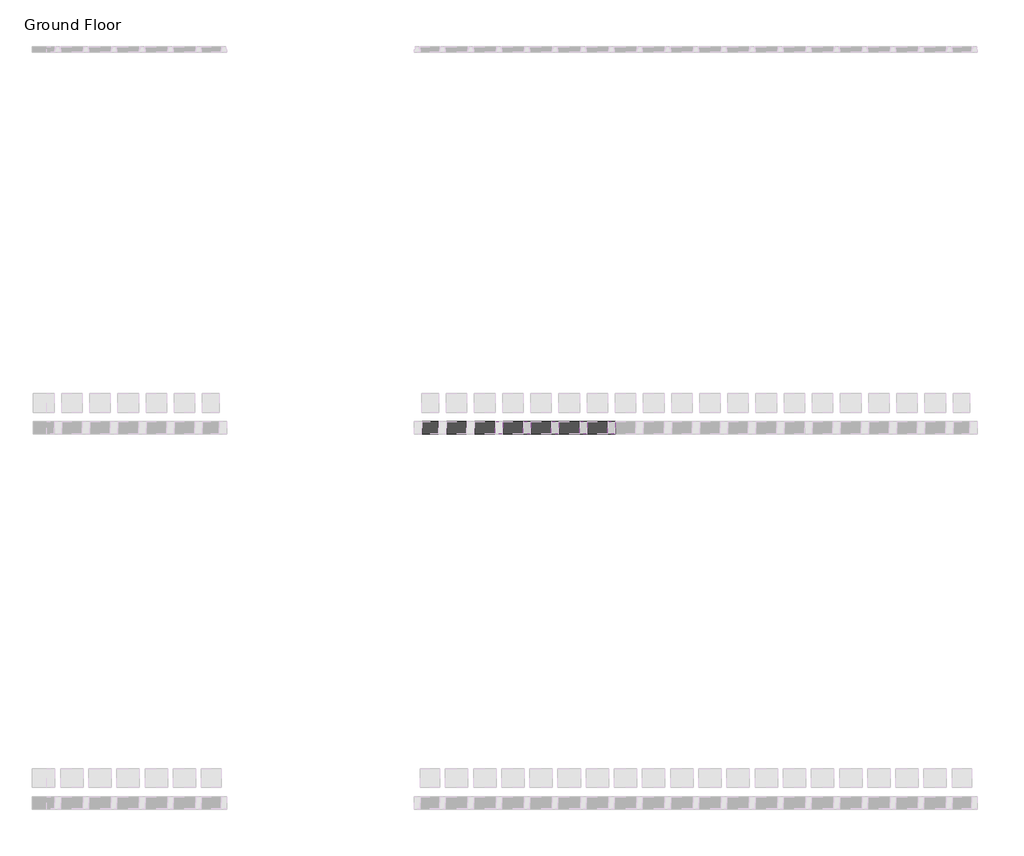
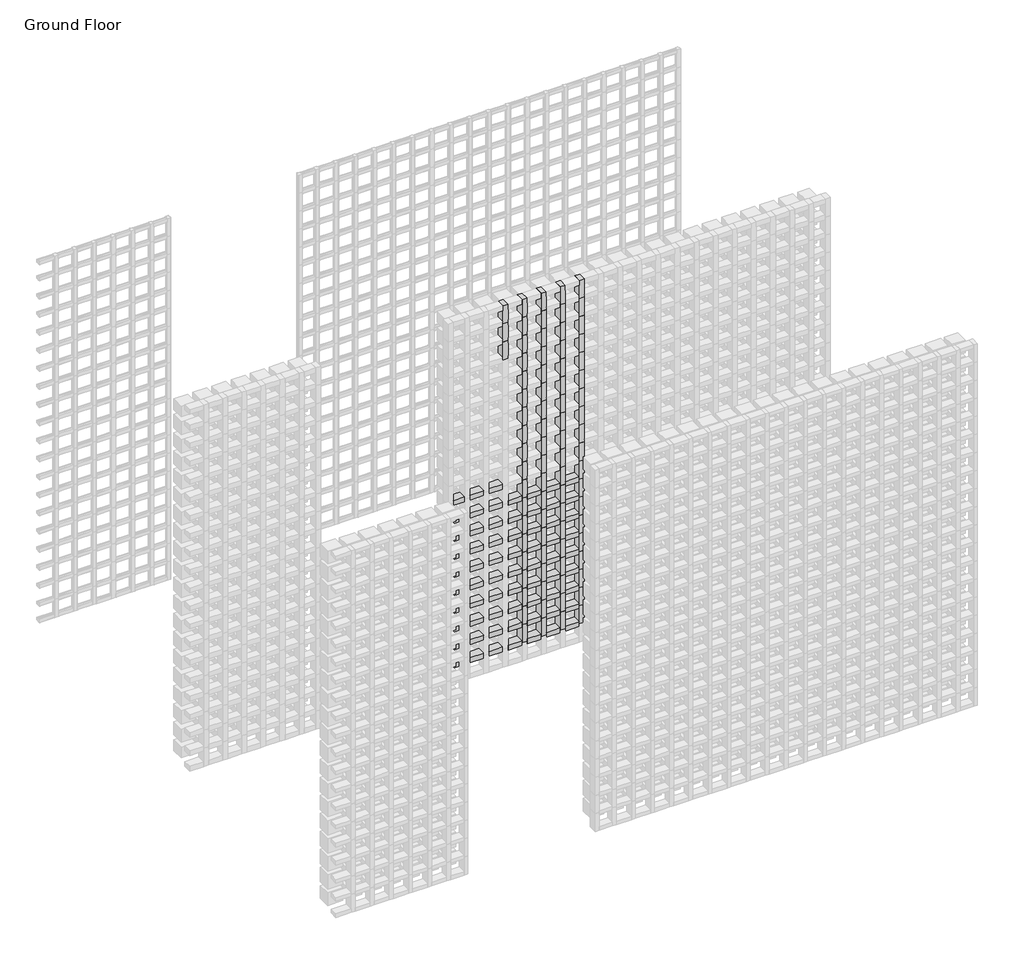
# One storey, part 128 of 350: 145 members.
"""IFC4 building model written with IfcOpenShell, lengths in millimetres."""

from ifc_helpers import new_model, si_unit, origin, place, context, project, spatial, transform, mapped, element, save
from components import rectangular_mullion_655930e9, rectangular_mullion_0b6a8654, rectangular_mullion_97e353d0

model = new_model("IFC4")

# Units and contexts
model_context = context("Model", 3, world=origin())
ifc_project = project(units=[si_unit("LENGTHUNIT", "METRE", prefix="MILLI")], contexts=[model_context])

# Site, building, storey
site = spatial("IfcSite", under=ifc_project)
building = spatial("IfcBuilding", under=site)
storey = spatial("IfcBuildingStorey", under=building, Name="Ground Floor", Elevation=0.0)

# Members
placement = place(None, origin())
rectangular_mullion_shape = rectangular_mullion_655930e9(model_context)
element("IfcMember", 1, ObjectType="Rectangular Mullion : Batten_Timber_Modinex_Austratus_Grid_Fascia_40x65_Hemlock", at=placement, inside=storey, context=model_context, shape_type="MappedRepresentation", body=[
    mapped(rectangular_mullion_shape, transform((10366.4361642, 40968.2978302, 2550.0), x_axis=(1.0, 0.0, 0.0), y_axis=(0.0, -1.0, 0.0), z_axis=(0.0, 0.0, -1.0))),
])
element("IfcMember", 2, ObjectType="Rectangular Mullion : Batten_Timber_Modinex_Austratus_Grid_Fascia_40x65_Hemlock", at=placement, inside=storey, context=model_context, shape_type="MappedRepresentation", body=[
    mapped(rectangular_mullion_shape, transform((10366.4361642, 40968.2978302, 2700.0), x_axis=(1.0, 0.0, 0.0), y_axis=(0.0, -1.0, 0.0), z_axis=(0.0, 0.0, -1.0))),
])
element("IfcMember", 3, ObjectType="Rectangular Mullion : Batten_Timber_Modinex_Austratus_Grid_Fascia_40x65_Hemlock", at=placement, inside=storey, context=model_context, shape_type="MappedRepresentation", body=[
    mapped(rectangular_mullion_shape, transform((10516.4361642, 40968.2978302, 150.0), x_axis=(1.0, 0.0, 0.0), y_axis=(0.0, -1.0, 0.0), z_axis=(0.0, 0.0, -1.0))),
])
element("IfcMember", 4, ObjectType="Rectangular Mullion : Batten_Timber_Modinex_Austratus_Grid_Fascia_40x65_Hemlock", at=placement, inside=storey, context=model_context, shape_type="MappedRepresentation", body=[
    mapped(rectangular_mullion_shape, transform((10516.4361642, 40968.2978302, 300.0), x_axis=(1.0, 0.0, 0.0), y_axis=(0.0, -1.0, 0.0), z_axis=(0.0, 0.0, -1.0))),
])
element("IfcMember", 5, ObjectType="Rectangular Mullion : Batten_Timber_Modinex_Austratus_Grid_Fascia_40x65_Hemlock", at=placement, inside=storey, context=model_context, shape_type="MappedRepresentation", body=[
    mapped(rectangular_mullion_shape, transform((10516.4361642, 40968.2978302, 450.0), x_axis=(1.0, 0.0, 0.0), y_axis=(0.0, -1.0, 0.0), z_axis=(0.0, 0.0, -1.0))),
])
element("IfcMember", 6, ObjectType="Rectangular Mullion : Batten_Timber_Modinex_Austratus_Grid_Fascia_40x65_Hemlock", at=placement, inside=storey, context=model_context, shape_type="MappedRepresentation", body=[
    mapped(rectangular_mullion_shape, transform((10516.4361642, 40968.2978302, 600.0), x_axis=(1.0, 0.0, 0.0), y_axis=(0.0, -1.0, 0.0), z_axis=(0.0, 0.0, -1.0))),
])
element("IfcMember", 7, ObjectType="Rectangular Mullion : Batten_Timber_Modinex_Austratus_Grid_Fascia_40x65_Hemlock", at=placement, inside=storey, context=model_context, shape_type="MappedRepresentation", body=[
    mapped(rectangular_mullion_shape, transform((10516.4361642, 40968.2978302, 750.0), x_axis=(1.0, 0.0, 0.0), y_axis=(0.0, -1.0, 0.0), z_axis=(0.0, 0.0, -1.0))),
])
element("IfcMember", 8, ObjectType="Rectangular Mullion : Batten_Timber_Modinex_Austratus_Grid_Fascia_40x65_Hemlock", at=placement, inside=storey, context=model_context, shape_type="MappedRepresentation", body=[
    mapped(rectangular_mullion_shape, transform((10516.4361642, 40968.2978302, 900.0), x_axis=(1.0, 0.0, 0.0), y_axis=(0.0, -1.0, 0.0), z_axis=(0.0, 0.0, -1.0))),
])
element("IfcMember", 9, ObjectType="Rectangular Mullion : Batten_Timber_Modinex_Austratus_Grid_Fascia_40x65_Hemlock", at=placement, inside=storey, context=model_context, shape_type="MappedRepresentation", body=[
    mapped(rectangular_mullion_shape, transform((10516.4361642, 40968.2978302, 1050.0), x_axis=(1.0, 0.0, 0.0), y_axis=(0.0, -1.0, 0.0), z_axis=(0.0, 0.0, -1.0))),
])
element("IfcMember", 10, ObjectType="Rectangular Mullion : Batten_Timber_Modinex_Austratus_Grid_Fascia_40x65_Hemlock", at=placement, inside=storey, context=model_context, shape_type="MappedRepresentation", body=[
    mapped(rectangular_mullion_shape, transform((10516.4361642, 40968.2978302, 1200.0), x_axis=(1.0, 0.0, 0.0), y_axis=(0.0, -1.0, 0.0), z_axis=(0.0, 0.0, -1.0))),
])
element("IfcMember", 11, ObjectType="Rectangular Mullion : Batten_Timber_Modinex_Austratus_Grid_Fascia_40x65_Hemlock", at=placement, inside=storey, context=model_context, shape_type="MappedRepresentation", body=[
    mapped(rectangular_mullion_shape, transform((10516.4361642, 40968.2978302, 1350.0), x_axis=(1.0, 0.0, 0.0), y_axis=(0.0, -1.0, 0.0), z_axis=(0.0, 0.0, -1.0))),
])
element("IfcMember", 12, ObjectType="Rectangular Mullion : Batten_Timber_Modinex_Austratus_Grid_Fascia_40x65_Hemlock", at=placement, inside=storey, context=model_context, shape_type="MappedRepresentation", body=[
    mapped(rectangular_mullion_shape, transform((10516.4361642, 40968.2978302, 1500.0), x_axis=(1.0, 0.0, 0.0), y_axis=(0.0, -1.0, 0.0), z_axis=(0.0, 0.0, -1.0))),
])
element("IfcMember", 13, ObjectType="Rectangular Mullion : Batten_Timber_Modinex_Austratus_Grid_Fascia_40x65_Hemlock", at=placement, inside=storey, context=model_context, shape_type="MappedRepresentation", body=[
    mapped(rectangular_mullion_shape, transform((10516.4361642, 40968.2978302, 1650.0), x_axis=(1.0, 0.0, 0.0), y_axis=(0.0, -1.0, 0.0), z_axis=(0.0, 0.0, -1.0))),
])
element("IfcMember", 14, ObjectType="Rectangular Mullion : Batten_Timber_Modinex_Austratus_Grid_Fascia_40x65_Hemlock", at=placement, inside=storey, context=model_context, shape_type="MappedRepresentation", body=[
    mapped(rectangular_mullion_shape, transform((10516.4361642, 40968.2978302, 1800.0), x_axis=(1.0, 0.0, 0.0), y_axis=(0.0, -1.0, 0.0), z_axis=(0.0, 0.0, -1.0))),
])
element("IfcMember", 15, ObjectType="Rectangular Mullion : Batten_Timber_Modinex_Austratus_Grid_Fascia_40x65_Hemlock", at=placement, inside=storey, context=model_context, shape_type="MappedRepresentation", body=[
    mapped(rectangular_mullion_shape, transform((10516.4361642, 40968.2978302, 1950.0), x_axis=(1.0, 0.0, 0.0), y_axis=(0.0, -1.0, 0.0), z_axis=(0.0, 0.0, -1.0))),
])
element("IfcMember", 16, ObjectType="Rectangular Mullion : Batten_Timber_Modinex_Austratus_Grid_Fascia_40x65_Hemlock", at=placement, inside=storey, context=model_context, shape_type="MappedRepresentation", body=[
    mapped(rectangular_mullion_shape, transform((10516.4361642, 40968.2978302, 2100.0), x_axis=(1.0, 0.0, 0.0), y_axis=(0.0, -1.0, 0.0), z_axis=(0.0, 0.0, -1.0))),
])
element("IfcMember", 17, ObjectType="Rectangular Mullion : Batten_Timber_Modinex_Austratus_Grid_Fascia_40x65_Hemlock", at=placement, inside=storey, context=model_context, shape_type="MappedRepresentation", body=[
    mapped(rectangular_mullion_shape, transform((10516.4361642, 40968.2978302, 2250.0), x_axis=(1.0, 0.0, 0.0), y_axis=(0.0, -1.0, 0.0), z_axis=(0.0, 0.0, -1.0))),
])
element("IfcMember", 18, ObjectType="Rectangular Mullion : Batten_Timber_Modinex_Austratus_Grid_Fascia_40x65_Hemlock", at=placement, inside=storey, context=model_context, shape_type="MappedRepresentation", body=[
    mapped(rectangular_mullion_shape, transform((10516.4361642, 40968.2978302, 2400.0), x_axis=(1.0, 0.0, 0.0), y_axis=(0.0, -1.0, 0.0), z_axis=(0.0, 0.0, -1.0))),
])
element("IfcMember", 19, ObjectType="Rectangular Mullion : Batten_Timber_Modinex_Austratus_Grid_Fascia_40x65_Hemlock", at=placement, inside=storey, context=model_context, shape_type="MappedRepresentation", body=[
    mapped(rectangular_mullion_shape, transform((10516.4361642, 40968.2978302, 2550.0), x_axis=(1.0, 0.0, 0.0), y_axis=(0.0, -1.0, 0.0), z_axis=(0.0, 0.0, -1.0))),
])
element("IfcMember", 20, ObjectType="Rectangular Mullion : Batten_Timber_Modinex_Austratus_Grid_Fascia_40x65_Hemlock", at=placement, inside=storey, context=model_context, shape_type="MappedRepresentation", body=[
    mapped(rectangular_mullion_shape, transform((10516.4361642, 40968.2978302, 2700.0), x_axis=(1.0, 0.0, 0.0), y_axis=(0.0, -1.0, 0.0), z_axis=(0.0, 0.0, -1.0))),
])
element("IfcMember", 21, ObjectType="Rectangular Mullion : Batten_Timber_Modinex_Austratus_Grid_Fascia_40x65_Hemlock", at=placement, inside=storey, context=model_context, shape_type="MappedRepresentation", body=[
    mapped(rectangular_mullion_shape, transform((10666.4361642, 40968.2978302, 150.0), x_axis=(1.0, 0.0, 0.0), y_axis=(0.0, -1.0, 0.0), z_axis=(0.0, 0.0, -1.0))),
])
element("IfcMember", 22, ObjectType="Rectangular Mullion : Batten_Timber_Modinex_Austratus_Grid_Fascia_40x65_Hemlock", at=placement, inside=storey, context=model_context, shape_type="MappedRepresentation", body=[
    mapped(rectangular_mullion_shape, transform((10666.4361642, 40968.2978302, 300.0), x_axis=(1.0, 0.0, 0.0), y_axis=(0.0, -1.0, 0.0), z_axis=(0.0, 0.0, -1.0))),
])
element("IfcMember", 23, ObjectType="Rectangular Mullion : Batten_Timber_Modinex_Austratus_Grid_Fascia_40x65_Hemlock", at=placement, inside=storey, context=model_context, shape_type="MappedRepresentation", body=[
    mapped(rectangular_mullion_shape, transform((10666.4361642, 40968.2978302, 450.0), x_axis=(1.0, 0.0, 0.0), y_axis=(0.0, -1.0, 0.0), z_axis=(0.0, 0.0, -1.0))),
])
element("IfcMember", 24, ObjectType="Rectangular Mullion : Batten_Timber_Modinex_Austratus_Grid_Fascia_40x65_Hemlock", at=placement, inside=storey, context=model_context, shape_type="MappedRepresentation", body=[
    mapped(rectangular_mullion_shape, transform((10666.4361642, 40968.2978302, 600.0), x_axis=(1.0, 0.0, 0.0), y_axis=(0.0, -1.0, 0.0), z_axis=(0.0, 0.0, -1.0))),
])
element("IfcMember", 25, ObjectType="Rectangular Mullion : Batten_Timber_Modinex_Austratus_Grid_Fascia_40x65_Hemlock", at=placement, inside=storey, context=model_context, shape_type="MappedRepresentation", body=[
    mapped(rectangular_mullion_shape, transform((10666.4361642, 40968.2978302, 750.0), x_axis=(1.0, 0.0, 0.0), y_axis=(0.0, -1.0, 0.0), z_axis=(0.0, 0.0, -1.0))),
])
element("IfcMember", 26, ObjectType="Rectangular Mullion : Batten_Timber_Modinex_Austratus_Grid_Fascia_40x65_Hemlock", at=placement, inside=storey, context=model_context, shape_type="MappedRepresentation", body=[
    mapped(rectangular_mullion_shape, transform((10666.4361642, 40968.2978302, 900.0), x_axis=(1.0, 0.0, 0.0), y_axis=(0.0, -1.0, 0.0), z_axis=(0.0, 0.0, -1.0))),
])
element("IfcMember", 27, ObjectType="Rectangular Mullion : Batten_Timber_Modinex_Austratus_Grid_Fascia_40x65_Hemlock", at=placement, inside=storey, context=model_context, shape_type="MappedRepresentation", body=[
    mapped(rectangular_mullion_shape, transform((10666.4361642, 40968.2978302, 1050.0), x_axis=(1.0, 0.0, 0.0), y_axis=(0.0, -1.0, 0.0), z_axis=(0.0, 0.0, -1.0))),
])
element("IfcMember", 28, ObjectType="Rectangular Mullion : Batten_Timber_Modinex_Austratus_Grid_Fascia_40x65_Hemlock", at=placement, inside=storey, context=model_context, shape_type="MappedRepresentation", body=[
    mapped(rectangular_mullion_shape, transform((10666.4361642, 40968.2978302, 1200.0), x_axis=(1.0, 0.0, 0.0), y_axis=(0.0, -1.0, 0.0), z_axis=(0.0, 0.0, -1.0))),
])
element("IfcMember", 29, ObjectType="Rectangular Mullion : Batten_Timber_Modinex_Austratus_Grid_Fascia_40x65_Hemlock", at=placement, inside=storey, context=model_context, shape_type="MappedRepresentation", body=[
    mapped(rectangular_mullion_shape, transform((10666.4361642, 40968.2978302, 1350.0), x_axis=(1.0, 0.0, 0.0), y_axis=(0.0, -1.0, 0.0), z_axis=(0.0, 0.0, -1.0))),
])
element("IfcMember", 30, ObjectType="Rectangular Mullion : Batten_Timber_Modinex_Austratus_Grid_Fascia_40x65_Hemlock", at=placement, inside=storey, context=model_context, shape_type="MappedRepresentation", body=[
    mapped(rectangular_mullion_shape, transform((10666.4361642, 40968.2978302, 1500.0), x_axis=(1.0, 0.0, 0.0), y_axis=(0.0, -1.0, 0.0), z_axis=(0.0, 0.0, -1.0))),
])
element("IfcMember", 31, ObjectType="Rectangular Mullion : Batten_Timber_Modinex_Austratus_Grid_Fascia_40x65_Hemlock", at=placement, inside=storey, context=model_context, shape_type="MappedRepresentation", body=[
    mapped(rectangular_mullion_shape, transform((10666.4361642, 40968.2978302, 1650.0), x_axis=(1.0, 0.0, 0.0), y_axis=(0.0, -1.0, 0.0), z_axis=(0.0, 0.0, -1.0))),
])
element("IfcMember", 32, ObjectType="Rectangular Mullion : Batten_Timber_Modinex_Austratus_Grid_Fascia_40x65_Hemlock", at=placement, inside=storey, context=model_context, shape_type="MappedRepresentation", body=[
    mapped(rectangular_mullion_shape, transform((10666.4361642, 40968.2978302, 1800.0), x_axis=(1.0, 0.0, 0.0), y_axis=(0.0, -1.0, 0.0), z_axis=(0.0, 0.0, -1.0))),
])
element("IfcMember", 33, ObjectType="Rectangular Mullion : Batten_Timber_Modinex_Austratus_Grid_Fascia_40x65_Hemlock", at=placement, inside=storey, context=model_context, shape_type="MappedRepresentation", body=[
    mapped(rectangular_mullion_shape, transform((10666.4361642, 40968.2978302, 1950.0), x_axis=(1.0, 0.0, 0.0), y_axis=(0.0, -1.0, 0.0), z_axis=(0.0, 0.0, -1.0))),
])
element("IfcMember", 34, ObjectType="Rectangular Mullion : Batten_Timber_Modinex_Austratus_Grid_Fascia_40x65_Hemlock", at=placement, inside=storey, context=model_context, shape_type="MappedRepresentation", body=[
    mapped(rectangular_mullion_shape, transform((10666.4361642, 40968.2978302, 2100.0), x_axis=(1.0, 0.0, 0.0), y_axis=(0.0, -1.0, 0.0), z_axis=(0.0, 0.0, -1.0))),
])
element("IfcMember", 35, ObjectType="Rectangular Mullion : Batten_Timber_Modinex_Austratus_Grid_Fascia_40x65_Hemlock", at=placement, inside=storey, context=model_context, shape_type="MappedRepresentation", body=[
    mapped(rectangular_mullion_shape, transform((10666.4361642, 40968.2978302, 2250.0), x_axis=(1.0, 0.0, 0.0), y_axis=(0.0, -1.0, 0.0), z_axis=(0.0, 0.0, -1.0))),
])
element("IfcMember", 36, ObjectType="Rectangular Mullion : Batten_Timber_Modinex_Austratus_Grid_Fascia_40x65_Hemlock", at=placement, inside=storey, context=model_context, shape_type="MappedRepresentation", body=[
    mapped(rectangular_mullion_shape, transform((10666.4361642, 40968.2978302, 2400.0), x_axis=(1.0, 0.0, 0.0), y_axis=(0.0, -1.0, 0.0), z_axis=(0.0, 0.0, -1.0))),
])
element("IfcMember", 37, ObjectType="Rectangular Mullion : Batten_Timber_Modinex_Austratus_Grid_Fascia_40x65_Hemlock", at=placement, inside=storey, context=model_context, shape_type="MappedRepresentation", body=[
    mapped(rectangular_mullion_shape, transform((10666.4361642, 40968.2978302, 2550.0), x_axis=(1.0, 0.0, 0.0), y_axis=(0.0, -1.0, 0.0), z_axis=(0.0, 0.0, -1.0))),
])
element("IfcMember", 38, ObjectType="Rectangular Mullion : Batten_Timber_Modinex_Austratus_Grid_Fascia_40x65_Hemlock", at=placement, inside=storey, context=model_context, shape_type="MappedRepresentation", body=[
    mapped(rectangular_mullion_shape, transform((10666.4361642, 40968.2978302, 2700.0), x_axis=(1.0, 0.0, 0.0), y_axis=(0.0, -1.0, 0.0), z_axis=(0.0, 0.0, -1.0))),
])
element("IfcMember", 39, ObjectType="Rectangular Mullion : Batten_Timber_Modinex_Austratus_Grid_Fascia_40x65_Hemlock", at=placement, inside=storey, context=model_context, shape_type="MappedRepresentation", body=[
    mapped(rectangular_mullion_shape, transform((10816.4361642, 40968.2978302, 150.0), x_axis=(1.0, 0.0, 0.0), y_axis=(0.0, -1.0, 0.0), z_axis=(0.0, 0.0, -1.0))),
])
element("IfcMember", 40, ObjectType="Rectangular Mullion : Batten_Timber_Modinex_Austratus_Grid_Fascia_40x65_Hemlock", at=placement, inside=storey, context=model_context, shape_type="MappedRepresentation", body=[
    mapped(rectangular_mullion_shape, transform((10816.4361642, 40968.2978302, 300.0), x_axis=(1.0, 0.0, 0.0), y_axis=(0.0, -1.0, 0.0), z_axis=(0.0, 0.0, -1.0))),
])
element("IfcMember", 41, ObjectType="Rectangular Mullion : Batten_Timber_Modinex_Austratus_Grid_Fascia_40x65_Hemlock", at=placement, inside=storey, context=model_context, shape_type="MappedRepresentation", body=[
    mapped(rectangular_mullion_shape, transform((10816.4361642, 40968.2978302, 450.0), x_axis=(1.0, 0.0, 0.0), y_axis=(0.0, -1.0, 0.0), z_axis=(0.0, 0.0, -1.0))),
])
element("IfcMember", 42, ObjectType="Rectangular Mullion : Batten_Timber_Modinex_Austratus_Grid_Fascia_40x65_Hemlock", at=placement, inside=storey, context=model_context, shape_type="MappedRepresentation", body=[
    mapped(rectangular_mullion_shape, transform((10816.4361642, 40968.2978302, 600.0), x_axis=(1.0, 0.0, 0.0), y_axis=(0.0, -1.0, 0.0), z_axis=(0.0, 0.0, -1.0))),
])
element("IfcMember", 43, ObjectType="Rectangular Mullion : Batten_Timber_Modinex_Austratus_Grid_Fascia_40x65_Hemlock", at=placement, inside=storey, context=model_context, shape_type="MappedRepresentation", body=[
    mapped(rectangular_mullion_shape, transform((10816.4361642, 40968.2978302, 750.0), x_axis=(1.0, 0.0, 0.0), y_axis=(0.0, -1.0, 0.0), z_axis=(0.0, 0.0, -1.0))),
])
element("IfcMember", 44, ObjectType="Rectangular Mullion : Batten_Timber_Modinex_Austratus_Grid_Fascia_40x65_Hemlock", at=placement, inside=storey, context=model_context, shape_type="MappedRepresentation", body=[
    mapped(rectangular_mullion_shape, transform((10816.4361642, 40968.2978302, 900.0), x_axis=(1.0, 0.0, 0.0), y_axis=(0.0, -1.0, 0.0), z_axis=(0.0, 0.0, -1.0))),
])
element("IfcMember", 45, ObjectType="Rectangular Mullion : Batten_Timber_Modinex_Austratus_Grid_Fascia_40x65_Hemlock", at=placement, inside=storey, context=model_context, shape_type="MappedRepresentation", body=[
    mapped(rectangular_mullion_shape, transform((10816.4361642, 40968.2978302, 1050.0), x_axis=(1.0, 0.0, 0.0), y_axis=(0.0, -1.0, 0.0), z_axis=(0.0, 0.0, -1.0))),
])
element("IfcMember", 46, ObjectType="Rectangular Mullion : Batten_Timber_Modinex_Austratus_Grid_Fascia_40x65_Hemlock", at=placement, inside=storey, context=model_context, shape_type="MappedRepresentation", body=[
    mapped(rectangular_mullion_shape, transform((10816.4361642, 40968.2978302, 1200.0), x_axis=(1.0, 0.0, 0.0), y_axis=(0.0, -1.0, 0.0), z_axis=(0.0, 0.0, -1.0))),
])
element("IfcMember", 47, ObjectType="Rectangular Mullion : Batten_Timber_Modinex_Austratus_Grid_Fascia_40x65_Hemlock", at=placement, inside=storey, context=model_context, shape_type="MappedRepresentation", body=[
    mapped(rectangular_mullion_shape, transform((10816.4361642, 40968.2978302, 1350.0), x_axis=(1.0, 0.0, 0.0), y_axis=(0.0, -1.0, 0.0), z_axis=(0.0, 0.0, -1.0))),
])
element("IfcMember", 48, ObjectType="Rectangular Mullion : Batten_Timber_Modinex_Austratus_Grid_Fascia_40x65_Hemlock", at=placement, inside=storey, context=model_context, shape_type="MappedRepresentation", body=[
    mapped(rectangular_mullion_shape, transform((10816.4361642, 40968.2978302, 1500.0), x_axis=(1.0, 0.0, 0.0), y_axis=(0.0, -1.0, 0.0), z_axis=(0.0, 0.0, -1.0))),
])
element("IfcMember", 49, ObjectType="Rectangular Mullion : Batten_Timber_Modinex_Austratus_Grid_Fascia_40x65_Hemlock", at=placement, inside=storey, context=model_context, shape_type="MappedRepresentation", body=[
    mapped(rectangular_mullion_shape, transform((10816.4361642, 40968.2978302, 1650.0), x_axis=(1.0, 0.0, 0.0), y_axis=(0.0, -1.0, 0.0), z_axis=(0.0, 0.0, -1.0))),
])
element("IfcMember", 50, ObjectType="Rectangular Mullion : Batten_Timber_Modinex_Austratus_Grid_Fascia_40x65_Hemlock", at=placement, inside=storey, context=model_context, shape_type="MappedRepresentation", body=[
    mapped(rectangular_mullion_shape, transform((10816.4361642, 40968.2978302, 1800.0), x_axis=(1.0, 0.0, 0.0), y_axis=(0.0, -1.0, 0.0), z_axis=(0.0, 0.0, -1.0))),
])
element("IfcMember", 51, ObjectType="Rectangular Mullion : Batten_Timber_Modinex_Austratus_Grid_Fascia_40x65_Hemlock", at=placement, inside=storey, context=model_context, shape_type="MappedRepresentation", body=[
    mapped(rectangular_mullion_shape, transform((10816.4361642, 40968.2978302, 1950.0), x_axis=(1.0, 0.0, 0.0), y_axis=(0.0, -1.0, 0.0), z_axis=(0.0, 0.0, -1.0))),
])
element("IfcMember", 52, ObjectType="Rectangular Mullion : Batten_Timber_Modinex_Austratus_Grid_Fascia_40x65_Hemlock", at=placement, inside=storey, context=model_context, shape_type="MappedRepresentation", body=[
    mapped(rectangular_mullion_shape, transform((10816.4361642, 40968.2978302, 2100.0), x_axis=(1.0, 0.0, 0.0), y_axis=(0.0, -1.0, 0.0), z_axis=(0.0, 0.0, -1.0))),
])
element("IfcMember", 53, ObjectType="Rectangular Mullion : Batten_Timber_Modinex_Austratus_Grid_Fascia_40x65_Hemlock", at=placement, inside=storey, context=model_context, shape_type="MappedRepresentation", body=[
    mapped(rectangular_mullion_shape, transform((10816.4361642, 40968.2978302, 2250.0), x_axis=(1.0, 0.0, 0.0), y_axis=(0.0, -1.0, 0.0), z_axis=(0.0, 0.0, -1.0))),
])
element("IfcMember", 54, ObjectType="Rectangular Mullion : Batten_Timber_Modinex_Austratus_Grid_Fascia_40x65_Hemlock", at=placement, inside=storey, context=model_context, shape_type="MappedRepresentation", body=[
    mapped(rectangular_mullion_shape, transform((10816.4361642, 40968.2978302, 2400.0), x_axis=(1.0, 0.0, 0.0), y_axis=(0.0, -1.0, 0.0), z_axis=(0.0, 0.0, -1.0))),
])
element("IfcMember", 55, ObjectType="Rectangular Mullion : Batten_Timber_Modinex_Austratus_Grid_Fascia_40x65_Hemlock", at=placement, inside=storey, context=model_context, shape_type="MappedRepresentation", body=[
    mapped(rectangular_mullion_shape, transform((10816.4361642, 40968.2978302, 2550.0), x_axis=(1.0, 0.0, 0.0), y_axis=(0.0, -1.0, 0.0), z_axis=(0.0, 0.0, -1.0))),
])
element("IfcMember", 56, ObjectType="Rectangular Mullion : Batten_Timber_Modinex_Austratus_Grid_Fascia_40x65_Hemlock", at=placement, inside=storey, context=model_context, shape_type="MappedRepresentation", body=[
    mapped(rectangular_mullion_shape, transform((10816.4361642, 40968.2978302, 2700.0), x_axis=(1.0, 0.0, 0.0), y_axis=(0.0, -1.0, 0.0), z_axis=(0.0, 0.0, -1.0))),
])
element("IfcMember", 57, ObjectType="Rectangular Mullion : Batten_Timber_Modinex_Austratus_Grid_Fascia_40x65_Hemlock", at=placement, inside=storey, context=model_context, shape_type="MappedRepresentation", body=[
    mapped(rectangular_mullion_shape, transform((10966.4361642, 40968.2978302, 150.0), x_axis=(1.0, 0.0, 0.0), y_axis=(0.0, -1.0, 0.0), z_axis=(0.0, 0.0, -1.0))),
])
element("IfcMember", 58, ObjectType="Rectangular Mullion : Batten_Timber_Modinex_Austratus_Grid_Fascia_40x65_Hemlock", at=placement, inside=storey, context=model_context, shape_type="MappedRepresentation", body=[
    mapped(rectangular_mullion_shape, transform((10966.4361642, 40968.2978302, 300.0), x_axis=(1.0, 0.0, 0.0), y_axis=(0.0, -1.0, 0.0), z_axis=(0.0, 0.0, -1.0))),
])
element("IfcMember", 59, ObjectType="Rectangular Mullion : Batten_Timber_Modinex_Austratus_Grid_Fascia_40x65_Hemlock", at=placement, inside=storey, context=model_context, shape_type="MappedRepresentation", body=[
    mapped(rectangular_mullion_shape, transform((10966.4361642, 40968.2978302, 450.0), x_axis=(1.0, 0.0, 0.0), y_axis=(0.0, -1.0, 0.0), z_axis=(0.0, 0.0, -1.0))),
])
element("IfcMember", 60, ObjectType="Rectangular Mullion : Batten_Timber_Modinex_Austratus_Grid_Fascia_40x65_Hemlock", at=placement, inside=storey, context=model_context, shape_type="MappedRepresentation", body=[
    mapped(rectangular_mullion_shape, transform((10966.4361642, 40968.2978302, 600.0), x_axis=(1.0, 0.0, 0.0), y_axis=(0.0, -1.0, 0.0), z_axis=(0.0, 0.0, -1.0))),
])
element("IfcMember", 61, ObjectType="Rectangular Mullion : Batten_Timber_Modinex_Austratus_Grid_Fascia_40x65_Hemlock", at=placement, inside=storey, context=model_context, shape_type="MappedRepresentation", body=[
    mapped(rectangular_mullion_shape, transform((10966.4361642, 40968.2978302, 750.0), x_axis=(1.0, 0.0, 0.0), y_axis=(0.0, -1.0, 0.0), z_axis=(0.0, 0.0, -1.0))),
])
element("IfcMember", 62, ObjectType="Rectangular Mullion : Batten_Timber_Modinex_Austratus_Grid_Fascia_40x65_Hemlock", at=placement, inside=storey, context=model_context, shape_type="MappedRepresentation", body=[
    mapped(rectangular_mullion_shape, transform((10966.4361642, 40968.2978302, 900.0), x_axis=(1.0, 0.0, 0.0), y_axis=(0.0, -1.0, 0.0), z_axis=(0.0, 0.0, -1.0))),
])
element("IfcMember", 63, ObjectType="Rectangular Mullion : Batten_Timber_Modinex_Austratus_Grid_Fascia_40x65_Hemlock", at=placement, inside=storey, context=model_context, shape_type="MappedRepresentation", body=[
    mapped(rectangular_mullion_shape, transform((10966.4361642, 40968.2978302, 1050.0), x_axis=(1.0, 0.0, 0.0), y_axis=(0.0, -1.0, 0.0), z_axis=(0.0, 0.0, -1.0))),
])
element("IfcMember", 64, ObjectType="Rectangular Mullion : Batten_Timber_Modinex_Austratus_Grid_Fascia_40x65_Hemlock", at=placement, inside=storey, context=model_context, shape_type="MappedRepresentation", body=[
    mapped(rectangular_mullion_shape, transform((10966.4361642, 40968.2978302, 1200.0), x_axis=(1.0, 0.0, 0.0), y_axis=(0.0, -1.0, 0.0), z_axis=(0.0, 0.0, -1.0))),
])
element("IfcMember", 65, ObjectType="Rectangular Mullion : Batten_Timber_Modinex_Austratus_Grid_Fascia_40x65_Hemlock", at=placement, inside=storey, context=model_context, shape_type="MappedRepresentation", body=[
    mapped(rectangular_mullion_shape, transform((10966.4361642, 40968.2978302, 1350.0), x_axis=(1.0, 0.0, 0.0), y_axis=(0.0, -1.0, 0.0), z_axis=(0.0, 0.0, -1.0))),
])
element("IfcMember", 66, ObjectType="Rectangular Mullion : Batten_Timber_Modinex_Austratus_Grid_Fascia_40x65_Hemlock", at=placement, inside=storey, context=model_context, shape_type="MappedRepresentation", body=[
    mapped(rectangular_mullion_shape, transform((10966.4361642, 40968.2978302, 1500.0), x_axis=(1.0, 0.0, 0.0), y_axis=(0.0, -1.0, 0.0), z_axis=(0.0, 0.0, -1.0))),
])
element("IfcMember", 67, ObjectType="Rectangular Mullion : Batten_Timber_Modinex_Austratus_Grid_Fascia_40x65_Hemlock", at=placement, inside=storey, context=model_context, shape_type="MappedRepresentation", body=[
    mapped(rectangular_mullion_shape, transform((10966.4361642, 40968.2978302, 1650.0), x_axis=(1.0, 0.0, 0.0), y_axis=(0.0, -1.0, 0.0), z_axis=(0.0, 0.0, -1.0))),
])
element("IfcMember", 68, ObjectType="Rectangular Mullion : Batten_Timber_Modinex_Austratus_Grid_Fascia_40x65_Hemlock", at=placement, inside=storey, context=model_context, shape_type="MappedRepresentation", body=[
    mapped(rectangular_mullion_shape, transform((10966.4361642, 40968.2978302, 1800.0), x_axis=(1.0, 0.0, 0.0), y_axis=(0.0, -1.0, 0.0), z_axis=(0.0, 0.0, -1.0))),
])
element("IfcMember", 69, ObjectType="Rectangular Mullion : Batten_Timber_Modinex_Austratus_Grid_Fascia_40x65_Hemlock", at=placement, inside=storey, context=model_context, shape_type="MappedRepresentation", body=[
    mapped(rectangular_mullion_shape, transform((10966.4361642, 40968.2978302, 1950.0), x_axis=(1.0, 0.0, 0.0), y_axis=(0.0, -1.0, 0.0), z_axis=(0.0, 0.0, -1.0))),
])
element("IfcMember", 70, ObjectType="Rectangular Mullion : Batten_Timber_Modinex_Austratus_Grid_Fascia_40x65_Hemlock", at=placement, inside=storey, context=model_context, shape_type="MappedRepresentation", body=[
    mapped(rectangular_mullion_shape, transform((10966.4361642, 40968.2978302, 2100.0), x_axis=(1.0, 0.0, 0.0), y_axis=(0.0, -1.0, 0.0), z_axis=(0.0, 0.0, -1.0))),
])
element("IfcMember", 71, ObjectType="Rectangular Mullion : Batten_Timber_Modinex_Austratus_Grid_Fascia_40x65_Hemlock", at=placement, inside=storey, context=model_context, shape_type="MappedRepresentation", body=[
    mapped(rectangular_mullion_shape, transform((10966.4361642, 40968.2978302, 2250.0), x_axis=(1.0, 0.0, 0.0), y_axis=(0.0, -1.0, 0.0), z_axis=(0.0, 0.0, -1.0))),
])
element("IfcMember", 72, ObjectType="Rectangular Mullion : Batten_Timber_Modinex_Austratus_Grid_Fascia_40x65_Hemlock", at=placement, inside=storey, context=model_context, shape_type="MappedRepresentation", body=[
    mapped(rectangular_mullion_shape, transform((10966.4361642, 40968.2978302, 2400.0), x_axis=(1.0, 0.0, 0.0), y_axis=(0.0, -1.0, 0.0), z_axis=(0.0, 0.0, -1.0))),
])
element("IfcMember", 73, ObjectType="Rectangular Mullion : Batten_Timber_Modinex_Austratus_Grid_Fascia_40x65_Hemlock", at=placement, inside=storey, context=model_context, shape_type="MappedRepresentation", body=[
    mapped(rectangular_mullion_shape, transform((10966.4361642, 40968.2978302, 2550.0), x_axis=(1.0, 0.0, 0.0), y_axis=(0.0, -1.0, 0.0), z_axis=(0.0, 0.0, -1.0))),
])
element("IfcMember", 74, ObjectType="Rectangular Mullion : Batten_Timber_Modinex_Austratus_Grid_Fascia_40x65_Hemlock", at=placement, inside=storey, context=model_context, shape_type="MappedRepresentation", body=[
    mapped(rectangular_mullion_shape, transform((10966.4361642, 40968.2978302, 2700.0), x_axis=(1.0, 0.0, 0.0), y_axis=(0.0, -1.0, 0.0), z_axis=(0.0, 0.0, -1.0))),
])
element("IfcMember", 75, ObjectType="Rectangular Mullion : Batten_Timber_Modinex_Austratus_Grid_Fascia_40x65_Hemlock", at=placement, inside=storey, context=model_context, shape_type="MappedRepresentation", body=[
    mapped(rectangular_mullion_shape, transform((10366.4361642, 40968.2978302, 2850.0), x_axis=(1.0, 0.0, 0.0), y_axis=(0.0, -1.0, 0.0), z_axis=(0.0, 0.0, -1.0))),
])
element("IfcMember", 76, ObjectType="Rectangular Mullion : Batten_Timber_Modinex_Austratus_Grid_Fascia_40x65_Hemlock", at=placement, inside=storey, context=model_context, shape_type="MappedRepresentation", body=[
    mapped(rectangular_mullion_shape, transform((10516.4361642, 40968.2978302, 2850.0), x_axis=(1.0, 0.0, 0.0), y_axis=(0.0, -1.0, 0.0), z_axis=(0.0, 0.0, -1.0))),
])
element("IfcMember", 77, ObjectType="Rectangular Mullion : Batten_Timber_Modinex_Austratus_Grid_Fascia_40x65_Hemlock", at=placement, inside=storey, context=model_context, shape_type="MappedRepresentation", body=[
    mapped(rectangular_mullion_shape, transform((10666.4361642, 40968.2978302, 2850.0), x_axis=(1.0, 0.0, 0.0), y_axis=(0.0, -1.0, 0.0), z_axis=(0.0, 0.0, -1.0))),
])
element("IfcMember", 78, ObjectType="Rectangular Mullion : Batten_Timber_Modinex_Austratus_Grid_Fascia_40x65_Hemlock", at=placement, inside=storey, context=model_context, shape_type="MappedRepresentation", body=[
    mapped(rectangular_mullion_shape, transform((10816.4361642, 40968.2978302, 2850.0), x_axis=(1.0, 0.0, 0.0), y_axis=(0.0, -1.0, 0.0), z_axis=(0.0, 0.0, -1.0))),
])
element("IfcMember", 79, ObjectType="Rectangular Mullion : Batten_Timber_Modinex_Austratus_Grid_Fascia_40x65_Hemlock", at=placement, inside=storey, context=model_context, shape_type="MappedRepresentation", body=[
    mapped(rectangular_mullion_shape, transform((10966.4361642, 40968.2978302, 2850.0), x_axis=(1.0, 0.0, 0.0), y_axis=(0.0, -1.0, 0.0), z_axis=(0.0, 0.0, -1.0))),
])
rectangular_mullion_2_shape = rectangular_mullion_0b6a8654(model_context)
element("IfcMember", 80, ObjectType="Rectangular Mullion : Batten_Timber_Modinex_Austratus_Grid_Fascia_40x65_Hemlock", at=placement, inside=storey, context=model_context, shape_type="MappedRepresentation", body=[
    mapped(rectangular_mullion_2_shape, transform((10046.4361642, 40968.2978302, 150.0), x_axis=(0.0, 0.0, 1.0), y_axis=(0.0, -1.0, 0.0), z_axis=(1.0, 0.0, 0.0))),
])
element("IfcMember", 81, ObjectType="Rectangular Mullion : Batten_Timber_Modinex_Austratus_Grid_Fascia_40x65_Hemlock", at=placement, inside=storey, context=model_context, shape_type="MappedRepresentation", body=[
    mapped(rectangular_mullion_2_shape, transform((10046.4361642, 40968.2978302, 300.0), x_axis=(0.0, 0.0, 1.0), y_axis=(0.0, -1.0, 0.0), z_axis=(1.0, 0.0, 0.0))),
])
element("IfcMember", 82, ObjectType="Rectangular Mullion : Batten_Timber_Modinex_Austratus_Grid_Fascia_40x65_Hemlock", at=placement, inside=storey, context=model_context, shape_type="MappedRepresentation", body=[
    mapped(rectangular_mullion_2_shape, transform((10046.4361642, 40968.2978302, 450.0), x_axis=(0.0, 0.0, 1.0), y_axis=(0.0, -1.0, 0.0), z_axis=(1.0, 0.0, 0.0))),
])
element("IfcMember", 83, ObjectType="Rectangular Mullion : Batten_Timber_Modinex_Austratus_Grid_Fascia_40x65_Hemlock", at=placement, inside=storey, context=model_context, shape_type="MappedRepresentation", body=[
    mapped(rectangular_mullion_2_shape, transform((10046.4361642, 40968.2978302, 600.0), x_axis=(0.0, 0.0, 1.0), y_axis=(0.0, -1.0, 0.0), z_axis=(1.0, 0.0, 0.0))),
])
element("IfcMember", 84, ObjectType="Rectangular Mullion : Batten_Timber_Modinex_Austratus_Grid_Fascia_40x65_Hemlock", at=placement, inside=storey, context=model_context, shape_type="MappedRepresentation", body=[
    mapped(rectangular_mullion_2_shape, transform((10046.4361642, 40968.2978302, 750.0), x_axis=(0.0, 0.0, 1.0), y_axis=(0.0, -1.0, 0.0), z_axis=(1.0, 0.0, 0.0))),
])
element("IfcMember", 85, ObjectType="Rectangular Mullion : Batten_Timber_Modinex_Austratus_Grid_Fascia_40x65_Hemlock", at=placement, inside=storey, context=model_context, shape_type="MappedRepresentation", body=[
    mapped(rectangular_mullion_2_shape, transform((10046.4361642, 40968.2978302, 900.0), x_axis=(0.0, 0.0, 1.0), y_axis=(0.0, -1.0, 0.0), z_axis=(1.0, 0.0, 0.0))),
])
element("IfcMember", 86, ObjectType="Rectangular Mullion : Batten_Timber_Modinex_Austratus_Grid_Fascia_40x65_Hemlock", at=placement, inside=storey, context=model_context, shape_type="MappedRepresentation", body=[
    mapped(rectangular_mullion_2_shape, transform((10046.4361642, 40968.2978302, 1050.0), x_axis=(0.0, 0.0, 1.0), y_axis=(0.0, -1.0, 0.0), z_axis=(1.0, 0.0, 0.0))),
])
element("IfcMember", 87, ObjectType="Rectangular Mullion : Batten_Timber_Modinex_Austratus_Grid_Fascia_40x65_Hemlock", at=placement, inside=storey, context=model_context, shape_type="MappedRepresentation", body=[
    mapped(rectangular_mullion_2_shape, transform((10046.4361642, 40968.2978302, 1200.0), x_axis=(0.0, 0.0, 1.0), y_axis=(0.0, -1.0, 0.0), z_axis=(1.0, 0.0, 0.0))),
])
element("IfcMember", 88, ObjectType="Rectangular Mullion : Batten_Timber_Modinex_Austratus_Grid_Fascia_40x65_Hemlock", at=placement, inside=storey, context=model_context, shape_type="MappedRepresentation", body=[
    mapped(rectangular_mullion_2_shape, transform((10046.4361642, 40968.2978302, 1350.0), x_axis=(0.0, 0.0, 1.0), y_axis=(0.0, -1.0, 0.0), z_axis=(1.0, 0.0, 0.0))),
])
element("IfcMember", 89, ObjectType="Rectangular Mullion : Batten_Timber_Modinex_Austratus_Grid_Fascia_40x65_Hemlock", at=placement, inside=storey, context=model_context, shape_type="MappedRepresentation", body=[
    mapped(rectangular_mullion_2_shape, transform((10046.4361642, 40968.2978302, 1500.0), x_axis=(0.0, 0.0, 1.0), y_axis=(0.0, -1.0, 0.0), z_axis=(1.0, 0.0, 0.0))),
])
rectangular_mullion_3_shape = rectangular_mullion_97e353d0(model_context)
element("IfcMember", 90, ObjectType="Rectangular Mullion : Batten_Timber_Modinex_Austratus_Grid_Fascia_40x65_Hemlock", at=placement, inside=storey, context=model_context, shape_type="MappedRepresentation", body=[
    mapped(rectangular_mullion_3_shape, transform((10196.4361642, 40968.2978302, 150.0), x_axis=(0.0, 0.0, 1.0), y_axis=(0.0, -1.0, 0.0), z_axis=(1.0, 0.0, 0.0))),
])
element("IfcMember", 91, ObjectType="Rectangular Mullion : Batten_Timber_Modinex_Austratus_Grid_Fascia_40x65_Hemlock", at=placement, inside=storey, context=model_context, shape_type="MappedRepresentation", body=[
    mapped(rectangular_mullion_3_shape, transform((10346.4361642, 40968.2978302, 150.0), x_axis=(0.0, 0.0, 1.0), y_axis=(0.0, -1.0, 0.0), z_axis=(1.0, 0.0, 0.0))),
])
element("IfcMember", 92, ObjectType="Rectangular Mullion : Batten_Timber_Modinex_Austratus_Grid_Fascia_40x65_Hemlock", at=placement, inside=storey, context=model_context, shape_type="MappedRepresentation", body=[
    mapped(rectangular_mullion_3_shape, transform((10496.4361642, 40968.2978302, 150.0), x_axis=(0.0, 0.0, 1.0), y_axis=(0.0, -1.0, 0.0), z_axis=(1.0, 0.0, 0.0))),
])
element("IfcMember", 93, ObjectType="Rectangular Mullion : Batten_Timber_Modinex_Austratus_Grid_Fascia_40x65_Hemlock", at=placement, inside=storey, context=model_context, shape_type="MappedRepresentation", body=[
    mapped(rectangular_mullion_3_shape, transform((10646.4361642, 40968.2978302, 150.0), x_axis=(0.0, 0.0, 1.0), y_axis=(0.0, -1.0, 0.0), z_axis=(1.0, 0.0, 0.0))),
])
element("IfcMember", 94, ObjectType="Rectangular Mullion : Batten_Timber_Modinex_Austratus_Grid_Fascia_40x65_Hemlock", at=placement, inside=storey, context=model_context, shape_type="MappedRepresentation", body=[
    mapped(rectangular_mullion_3_shape, transform((10796.4361642, 40968.2978302, 150.0), x_axis=(0.0, 0.0, 1.0), y_axis=(0.0, -1.0, 0.0), z_axis=(1.0, 0.0, 0.0))),
])
element("IfcMember", 95, ObjectType="Rectangular Mullion : Batten_Timber_Modinex_Austratus_Grid_Fascia_40x65_Hemlock", at=placement, inside=storey, context=model_context, shape_type="MappedRepresentation", body=[
    mapped(rectangular_mullion_3_shape, transform((10946.4361642, 40968.2978302, 150.0), x_axis=(0.0, 0.0, 1.0), y_axis=(0.0, -1.0, 0.0), z_axis=(1.0, 0.0, 0.0))),
])
element("IfcMember", 96, ObjectType="Rectangular Mullion : Batten_Timber_Modinex_Austratus_Grid_Fascia_40x65_Hemlock", at=placement, inside=storey, context=model_context, shape_type="MappedRepresentation", body=[
    mapped(rectangular_mullion_3_shape, transform((10196.4361642, 40968.2978302, 300.0), x_axis=(0.0, 0.0, 1.0), y_axis=(0.0, -1.0, 0.0), z_axis=(1.0, 0.0, 0.0))),
])
element("IfcMember", 97, ObjectType="Rectangular Mullion : Batten_Timber_Modinex_Austratus_Grid_Fascia_40x65_Hemlock", at=placement, inside=storey, context=model_context, shape_type="MappedRepresentation", body=[
    mapped(rectangular_mullion_3_shape, transform((10346.4361642, 40968.2978302, 300.0), x_axis=(0.0, 0.0, 1.0), y_axis=(0.0, -1.0, 0.0), z_axis=(1.0, 0.0, 0.0))),
])
element("IfcMember", 98, ObjectType="Rectangular Mullion : Batten_Timber_Modinex_Austratus_Grid_Fascia_40x65_Hemlock", at=placement, inside=storey, context=model_context, shape_type="MappedRepresentation", body=[
    mapped(rectangular_mullion_3_shape, transform((10496.4361642, 40968.2978302, 300.0), x_axis=(0.0, 0.0, 1.0), y_axis=(0.0, -1.0, 0.0), z_axis=(1.0, 0.0, 0.0))),
])
element("IfcMember", 99, ObjectType="Rectangular Mullion : Batten_Timber_Modinex_Austratus_Grid_Fascia_40x65_Hemlock", at=placement, inside=storey, context=model_context, shape_type="MappedRepresentation", body=[
    mapped(rectangular_mullion_3_shape, transform((10646.4361642, 40968.2978302, 300.0), x_axis=(0.0, 0.0, 1.0), y_axis=(0.0, -1.0, 0.0), z_axis=(1.0, 0.0, 0.0))),
])
element("IfcMember", 100, ObjectType="Rectangular Mullion : Batten_Timber_Modinex_Austratus_Grid_Fascia_40x65_Hemlock", at=placement, inside=storey, context=model_context, shape_type="MappedRepresentation", body=[
    mapped(rectangular_mullion_3_shape, transform((10796.4361642, 40968.2978302, 300.0), x_axis=(0.0, 0.0, 1.0), y_axis=(0.0, -1.0, 0.0), z_axis=(1.0, 0.0, 0.0))),
])
element("IfcMember", 101, ObjectType="Rectangular Mullion : Batten_Timber_Modinex_Austratus_Grid_Fascia_40x65_Hemlock", at=placement, inside=storey, context=model_context, shape_type="MappedRepresentation", body=[
    mapped(rectangular_mullion_3_shape, transform((10946.4361642, 40968.2978302, 300.0), x_axis=(0.0, 0.0, 1.0), y_axis=(0.0, -1.0, 0.0), z_axis=(1.0, 0.0, 0.0))),
])
element("IfcMember", 102, ObjectType="Rectangular Mullion : Batten_Timber_Modinex_Austratus_Grid_Fascia_40x65_Hemlock", at=placement, inside=storey, context=model_context, shape_type="MappedRepresentation", body=[
    mapped(rectangular_mullion_3_shape, transform((10196.4361642, 40968.2978302, 450.0), x_axis=(0.0, 0.0, 1.0), y_axis=(0.0, -1.0, 0.0), z_axis=(1.0, 0.0, 0.0))),
])
element("IfcMember", 103, ObjectType="Rectangular Mullion : Batten_Timber_Modinex_Austratus_Grid_Fascia_40x65_Hemlock", at=placement, inside=storey, context=model_context, shape_type="MappedRepresentation", body=[
    mapped(rectangular_mullion_3_shape, transform((10346.4361642, 40968.2978302, 450.0), x_axis=(0.0, 0.0, 1.0), y_axis=(0.0, -1.0, 0.0), z_axis=(1.0, 0.0, 0.0))),
])
element("IfcMember", 104, ObjectType="Rectangular Mullion : Batten_Timber_Modinex_Austratus_Grid_Fascia_40x65_Hemlock", at=placement, inside=storey, context=model_context, shape_type="MappedRepresentation", body=[
    mapped(rectangular_mullion_3_shape, transform((10496.4361642, 40968.2978302, 450.0), x_axis=(0.0, 0.0, 1.0), y_axis=(0.0, -1.0, 0.0), z_axis=(1.0, 0.0, 0.0))),
])
element("IfcMember", 105, ObjectType="Rectangular Mullion : Batten_Timber_Modinex_Austratus_Grid_Fascia_40x65_Hemlock", at=placement, inside=storey, context=model_context, shape_type="MappedRepresentation", body=[
    mapped(rectangular_mullion_3_shape, transform((10646.4361642, 40968.2978302, 450.0), x_axis=(0.0, 0.0, 1.0), y_axis=(0.0, -1.0, 0.0), z_axis=(1.0, 0.0, 0.0))),
])
element("IfcMember", 106, ObjectType="Rectangular Mullion : Batten_Timber_Modinex_Austratus_Grid_Fascia_40x65_Hemlock", at=placement, inside=storey, context=model_context, shape_type="MappedRepresentation", body=[
    mapped(rectangular_mullion_3_shape, transform((10796.4361642, 40968.2978302, 450.0), x_axis=(0.0, 0.0, 1.0), y_axis=(0.0, -1.0, 0.0), z_axis=(1.0, 0.0, 0.0))),
])
element("IfcMember", 107, ObjectType="Rectangular Mullion : Batten_Timber_Modinex_Austratus_Grid_Fascia_40x65_Hemlock", at=placement, inside=storey, context=model_context, shape_type="MappedRepresentation", body=[
    mapped(rectangular_mullion_3_shape, transform((10946.4361642, 40968.2978302, 450.0), x_axis=(0.0, 0.0, 1.0), y_axis=(0.0, -1.0, 0.0), z_axis=(1.0, 0.0, 0.0))),
])
element("IfcMember", 108, ObjectType="Rectangular Mullion : Batten_Timber_Modinex_Austratus_Grid_Fascia_40x65_Hemlock", at=placement, inside=storey, context=model_context, shape_type="MappedRepresentation", body=[
    mapped(rectangular_mullion_3_shape, transform((10196.4361642, 40968.2978302, 600.0), x_axis=(0.0, 0.0, 1.0), y_axis=(0.0, -1.0, 0.0), z_axis=(1.0, 0.0, 0.0))),
])
element("IfcMember", 109, ObjectType="Rectangular Mullion : Batten_Timber_Modinex_Austratus_Grid_Fascia_40x65_Hemlock", at=placement, inside=storey, context=model_context, shape_type="MappedRepresentation", body=[
    mapped(rectangular_mullion_3_shape, transform((10346.4361642, 40968.2978302, 600.0), x_axis=(0.0, 0.0, 1.0), y_axis=(0.0, -1.0, 0.0), z_axis=(1.0, 0.0, 0.0))),
])
element("IfcMember", 110, ObjectType="Rectangular Mullion : Batten_Timber_Modinex_Austratus_Grid_Fascia_40x65_Hemlock", at=placement, inside=storey, context=model_context, shape_type="MappedRepresentation", body=[
    mapped(rectangular_mullion_3_shape, transform((10496.4361642, 40968.2978302, 600.0), x_axis=(0.0, 0.0, 1.0), y_axis=(0.0, -1.0, 0.0), z_axis=(1.0, 0.0, 0.0))),
])
element("IfcMember", 111, ObjectType="Rectangular Mullion : Batten_Timber_Modinex_Austratus_Grid_Fascia_40x65_Hemlock", at=placement, inside=storey, context=model_context, shape_type="MappedRepresentation", body=[
    mapped(rectangular_mullion_3_shape, transform((10646.4361642, 40968.2978302, 600.0), x_axis=(0.0, 0.0, 1.0), y_axis=(0.0, -1.0, 0.0), z_axis=(1.0, 0.0, 0.0))),
])
element("IfcMember", 112, ObjectType="Rectangular Mullion : Batten_Timber_Modinex_Austratus_Grid_Fascia_40x65_Hemlock", at=placement, inside=storey, context=model_context, shape_type="MappedRepresentation", body=[
    mapped(rectangular_mullion_3_shape, transform((10796.4361642, 40968.2978302, 600.0), x_axis=(0.0, 0.0, 1.0), y_axis=(0.0, -1.0, 0.0), z_axis=(1.0, 0.0, 0.0))),
])
element("IfcMember", 113, ObjectType="Rectangular Mullion : Batten_Timber_Modinex_Austratus_Grid_Fascia_40x65_Hemlock", at=placement, inside=storey, context=model_context, shape_type="MappedRepresentation", body=[
    mapped(rectangular_mullion_3_shape, transform((10946.4361642, 40968.2978302, 600.0), x_axis=(0.0, 0.0, 1.0), y_axis=(0.0, -1.0, 0.0), z_axis=(1.0, 0.0, 0.0))),
])
element("IfcMember", 114, ObjectType="Rectangular Mullion : Batten_Timber_Modinex_Austratus_Grid_Fascia_40x65_Hemlock", at=placement, inside=storey, context=model_context, shape_type="MappedRepresentation", body=[
    mapped(rectangular_mullion_3_shape, transform((10196.4361642, 40968.2978302, 750.0), x_axis=(0.0, 0.0, 1.0), y_axis=(0.0, -1.0, 0.0), z_axis=(1.0, 0.0, 0.0))),
])
element("IfcMember", 115, ObjectType="Rectangular Mullion : Batten_Timber_Modinex_Austratus_Grid_Fascia_40x65_Hemlock", at=placement, inside=storey, context=model_context, shape_type="MappedRepresentation", body=[
    mapped(rectangular_mullion_3_shape, transform((10346.4361642, 40968.2978302, 750.0), x_axis=(0.0, 0.0, 1.0), y_axis=(0.0, -1.0, 0.0), z_axis=(1.0, 0.0, 0.0))),
])
element("IfcMember", 116, ObjectType="Rectangular Mullion : Batten_Timber_Modinex_Austratus_Grid_Fascia_40x65_Hemlock", at=placement, inside=storey, context=model_context, shape_type="MappedRepresentation", body=[
    mapped(rectangular_mullion_3_shape, transform((10496.4361642, 40968.2978302, 750.0), x_axis=(0.0, 0.0, 1.0), y_axis=(0.0, -1.0, 0.0), z_axis=(1.0, 0.0, 0.0))),
])
element("IfcMember", 117, ObjectType="Rectangular Mullion : Batten_Timber_Modinex_Austratus_Grid_Fascia_40x65_Hemlock", at=placement, inside=storey, context=model_context, shape_type="MappedRepresentation", body=[
    mapped(rectangular_mullion_3_shape, transform((10646.4361642, 40968.2978302, 750.0), x_axis=(0.0, 0.0, 1.0), y_axis=(0.0, -1.0, 0.0), z_axis=(1.0, 0.0, 0.0))),
])
element("IfcMember", 118, ObjectType="Rectangular Mullion : Batten_Timber_Modinex_Austratus_Grid_Fascia_40x65_Hemlock", at=placement, inside=storey, context=model_context, shape_type="MappedRepresentation", body=[
    mapped(rectangular_mullion_3_shape, transform((10796.4361642, 40968.2978302, 750.0), x_axis=(0.0, 0.0, 1.0), y_axis=(0.0, -1.0, 0.0), z_axis=(1.0, 0.0, 0.0))),
])
element("IfcMember", 119, ObjectType="Rectangular Mullion : Batten_Timber_Modinex_Austratus_Grid_Fascia_40x65_Hemlock", at=placement, inside=storey, context=model_context, shape_type="MappedRepresentation", body=[
    mapped(rectangular_mullion_3_shape, transform((10946.4361642, 40968.2978302, 750.0), x_axis=(0.0, 0.0, 1.0), y_axis=(0.0, -1.0, 0.0), z_axis=(1.0, 0.0, 0.0))),
])
element("IfcMember", 120, ObjectType="Rectangular Mullion : Batten_Timber_Modinex_Austratus_Grid_Fascia_40x65_Hemlock", at=placement, inside=storey, context=model_context, shape_type="MappedRepresentation", body=[
    mapped(rectangular_mullion_3_shape, transform((10196.4361642, 40968.2978302, 900.0), x_axis=(0.0, 0.0, 1.0), y_axis=(0.0, -1.0, 0.0), z_axis=(1.0, 0.0, 0.0))),
])
element("IfcMember", 121, ObjectType="Rectangular Mullion : Batten_Timber_Modinex_Austratus_Grid_Fascia_40x65_Hemlock", at=placement, inside=storey, context=model_context, shape_type="MappedRepresentation", body=[
    mapped(rectangular_mullion_3_shape, transform((10346.4361642, 40968.2978302, 900.0), x_axis=(0.0, 0.0, 1.0), y_axis=(0.0, -1.0, 0.0), z_axis=(1.0, 0.0, 0.0))),
])
element("IfcMember", 122, ObjectType="Rectangular Mullion : Batten_Timber_Modinex_Austratus_Grid_Fascia_40x65_Hemlock", at=placement, inside=storey, context=model_context, shape_type="MappedRepresentation", body=[
    mapped(rectangular_mullion_3_shape, transform((10496.4361642, 40968.2978302, 900.0), x_axis=(0.0, 0.0, 1.0), y_axis=(0.0, -1.0, 0.0), z_axis=(1.0, 0.0, 0.0))),
])
element("IfcMember", 123, ObjectType="Rectangular Mullion : Batten_Timber_Modinex_Austratus_Grid_Fascia_40x65_Hemlock", at=placement, inside=storey, context=model_context, shape_type="MappedRepresentation", body=[
    mapped(rectangular_mullion_3_shape, transform((10646.4361642, 40968.2978302, 900.0), x_axis=(0.0, 0.0, 1.0), y_axis=(0.0, -1.0, 0.0), z_axis=(1.0, 0.0, 0.0))),
])
element("IfcMember", 124, ObjectType="Rectangular Mullion : Batten_Timber_Modinex_Austratus_Grid_Fascia_40x65_Hemlock", at=placement, inside=storey, context=model_context, shape_type="MappedRepresentation", body=[
    mapped(rectangular_mullion_3_shape, transform((10796.4361642, 40968.2978302, 900.0), x_axis=(0.0, 0.0, 1.0), y_axis=(0.0, -1.0, 0.0), z_axis=(1.0, 0.0, 0.0))),
])
element("IfcMember", 125, ObjectType="Rectangular Mullion : Batten_Timber_Modinex_Austratus_Grid_Fascia_40x65_Hemlock", at=placement, inside=storey, context=model_context, shape_type="MappedRepresentation", body=[
    mapped(rectangular_mullion_3_shape, transform((10946.4361642, 40968.2978302, 900.0), x_axis=(0.0, 0.0, 1.0), y_axis=(0.0, -1.0, 0.0), z_axis=(1.0, 0.0, 0.0))),
])
element("IfcMember", 126, ObjectType="Rectangular Mullion : Batten_Timber_Modinex_Austratus_Grid_Fascia_40x65_Hemlock", at=placement, inside=storey, context=model_context, shape_type="MappedRepresentation", body=[
    mapped(rectangular_mullion_3_shape, transform((10196.4361642, 40968.2978302, 1050.0), x_axis=(0.0, 0.0, 1.0), y_axis=(0.0, -1.0, 0.0), z_axis=(1.0, 0.0, 0.0))),
])
element("IfcMember", 127, ObjectType="Rectangular Mullion : Batten_Timber_Modinex_Austratus_Grid_Fascia_40x65_Hemlock", at=placement, inside=storey, context=model_context, shape_type="MappedRepresentation", body=[
    mapped(rectangular_mullion_3_shape, transform((10346.4361642, 40968.2978302, 1050.0), x_axis=(0.0, 0.0, 1.0), y_axis=(0.0, -1.0, 0.0), z_axis=(1.0, 0.0, 0.0))),
])
element("IfcMember", 128, ObjectType="Rectangular Mullion : Batten_Timber_Modinex_Austratus_Grid_Fascia_40x65_Hemlock", at=placement, inside=storey, context=model_context, shape_type="MappedRepresentation", body=[
    mapped(rectangular_mullion_3_shape, transform((10496.4361642, 40968.2978302, 1050.0), x_axis=(0.0, 0.0, 1.0), y_axis=(0.0, -1.0, 0.0), z_axis=(1.0, 0.0, 0.0))),
])
element("IfcMember", 129, ObjectType="Rectangular Mullion : Batten_Timber_Modinex_Austratus_Grid_Fascia_40x65_Hemlock", at=placement, inside=storey, context=model_context, shape_type="MappedRepresentation", body=[
    mapped(rectangular_mullion_3_shape, transform((10646.4361642, 40968.2978302, 1050.0), x_axis=(0.0, 0.0, 1.0), y_axis=(0.0, -1.0, 0.0), z_axis=(1.0, 0.0, 0.0))),
])
element("IfcMember", 130, ObjectType="Rectangular Mullion : Batten_Timber_Modinex_Austratus_Grid_Fascia_40x65_Hemlock", at=placement, inside=storey, context=model_context, shape_type="MappedRepresentation", body=[
    mapped(rectangular_mullion_3_shape, transform((10796.4361642, 40968.2978302, 1050.0), x_axis=(0.0, 0.0, 1.0), y_axis=(0.0, -1.0, 0.0), z_axis=(1.0, 0.0, 0.0))),
])
element("IfcMember", 131, ObjectType="Rectangular Mullion : Batten_Timber_Modinex_Austratus_Grid_Fascia_40x65_Hemlock", at=placement, inside=storey, context=model_context, shape_type="MappedRepresentation", body=[
    mapped(rectangular_mullion_3_shape, transform((10946.4361642, 40968.2978302, 1050.0), x_axis=(0.0, 0.0, 1.0), y_axis=(0.0, -1.0, 0.0), z_axis=(1.0, 0.0, 0.0))),
])
element("IfcMember", 132, ObjectType="Rectangular Mullion : Batten_Timber_Modinex_Austratus_Grid_Fascia_40x65_Hemlock", at=placement, inside=storey, context=model_context, shape_type="MappedRepresentation", body=[
    mapped(rectangular_mullion_3_shape, transform((10196.4361642, 40968.2978302, 1200.0), x_axis=(0.0, 0.0, 1.0), y_axis=(0.0, -1.0, 0.0), z_axis=(1.0, 0.0, 0.0))),
])
element("IfcMember", 133, ObjectType="Rectangular Mullion : Batten_Timber_Modinex_Austratus_Grid_Fascia_40x65_Hemlock", at=placement, inside=storey, context=model_context, shape_type="MappedRepresentation", body=[
    mapped(rectangular_mullion_3_shape, transform((10346.4361642, 40968.2978302, 1200.0), x_axis=(0.0, 0.0, 1.0), y_axis=(0.0, -1.0, 0.0), z_axis=(1.0, 0.0, 0.0))),
])
element("IfcMember", 134, ObjectType="Rectangular Mullion : Batten_Timber_Modinex_Austratus_Grid_Fascia_40x65_Hemlock", at=placement, inside=storey, context=model_context, shape_type="MappedRepresentation", body=[
    mapped(rectangular_mullion_3_shape, transform((10496.4361642, 40968.2978302, 1200.0), x_axis=(0.0, 0.0, 1.0), y_axis=(0.0, -1.0, 0.0), z_axis=(1.0, 0.0, 0.0))),
])
element("IfcMember", 135, ObjectType="Rectangular Mullion : Batten_Timber_Modinex_Austratus_Grid_Fascia_40x65_Hemlock", at=placement, inside=storey, context=model_context, shape_type="MappedRepresentation", body=[
    mapped(rectangular_mullion_3_shape, transform((10646.4361642, 40968.2978302, 1200.0), x_axis=(0.0, 0.0, 1.0), y_axis=(0.0, -1.0, 0.0), z_axis=(1.0, 0.0, 0.0))),
])
element("IfcMember", 136, ObjectType="Rectangular Mullion : Batten_Timber_Modinex_Austratus_Grid_Fascia_40x65_Hemlock", at=placement, inside=storey, context=model_context, shape_type="MappedRepresentation", body=[
    mapped(rectangular_mullion_3_shape, transform((10796.4361642, 40968.2978302, 1200.0), x_axis=(0.0, 0.0, 1.0), y_axis=(0.0, -1.0, 0.0), z_axis=(1.0, 0.0, 0.0))),
])
element("IfcMember", 137, ObjectType="Rectangular Mullion : Batten_Timber_Modinex_Austratus_Grid_Fascia_40x65_Hemlock", at=placement, inside=storey, context=model_context, shape_type="MappedRepresentation", body=[
    mapped(rectangular_mullion_3_shape, transform((10946.4361642, 40968.2978302, 1200.0), x_axis=(0.0, 0.0, 1.0), y_axis=(0.0, -1.0, 0.0), z_axis=(1.0, 0.0, 0.0))),
])
element("IfcMember", 138, ObjectType="Rectangular Mullion : Batten_Timber_Modinex_Austratus_Grid_Fascia_40x65_Hemlock", at=placement, inside=storey, context=model_context, shape_type="MappedRepresentation", body=[
    mapped(rectangular_mullion_3_shape, transform((10196.4361642, 40968.2978302, 1350.0), x_axis=(0.0, 0.0, 1.0), y_axis=(0.0, -1.0, 0.0), z_axis=(1.0, 0.0, 0.0))),
])
element("IfcMember", 139, ObjectType="Rectangular Mullion : Batten_Timber_Modinex_Austratus_Grid_Fascia_40x65_Hemlock", at=placement, inside=storey, context=model_context, shape_type="MappedRepresentation", body=[
    mapped(rectangular_mullion_3_shape, transform((10346.4361642, 40968.2978302, 1350.0), x_axis=(0.0, 0.0, 1.0), y_axis=(0.0, -1.0, 0.0), z_axis=(1.0, 0.0, 0.0))),
])
element("IfcMember", 140, ObjectType="Rectangular Mullion : Batten_Timber_Modinex_Austratus_Grid_Fascia_40x65_Hemlock", at=placement, inside=storey, context=model_context, shape_type="MappedRepresentation", body=[
    mapped(rectangular_mullion_3_shape, transform((10496.4361642, 40968.2978302, 1350.0), x_axis=(0.0, 0.0, 1.0), y_axis=(0.0, -1.0, 0.0), z_axis=(1.0, 0.0, 0.0))),
])
element("IfcMember", 141, ObjectType="Rectangular Mullion : Batten_Timber_Modinex_Austratus_Grid_Fascia_40x65_Hemlock", at=placement, inside=storey, context=model_context, shape_type="MappedRepresentation", body=[
    mapped(rectangular_mullion_3_shape, transform((10646.4361642, 40968.2978302, 1350.0), x_axis=(0.0, 0.0, 1.0), y_axis=(0.0, -1.0, 0.0), z_axis=(1.0, 0.0, 0.0))),
])
element("IfcMember", 142, ObjectType="Rectangular Mullion : Batten_Timber_Modinex_Austratus_Grid_Fascia_40x65_Hemlock", at=placement, inside=storey, context=model_context, shape_type="MappedRepresentation", body=[
    mapped(rectangular_mullion_3_shape, transform((10796.4361642, 40968.2978302, 1350.0), x_axis=(0.0, 0.0, 1.0), y_axis=(0.0, -1.0, 0.0), z_axis=(1.0, 0.0, 0.0))),
])
element("IfcMember", 143, ObjectType="Rectangular Mullion : Batten_Timber_Modinex_Austratus_Grid_Fascia_40x65_Hemlock", at=placement, inside=storey, context=model_context, shape_type="MappedRepresentation", body=[
    mapped(rectangular_mullion_3_shape, transform((10946.4361642, 40968.2978302, 1350.0), x_axis=(0.0, 0.0, 1.0), y_axis=(0.0, -1.0, 0.0), z_axis=(1.0, 0.0, 0.0))),
])
element("IfcMember", 144, ObjectType="Rectangular Mullion : Batten_Timber_Modinex_Austratus_Grid_Fascia_40x65_Hemlock", at=placement, inside=storey, context=model_context, shape_type="MappedRepresentation", body=[
    mapped(rectangular_mullion_3_shape, transform((10196.4361642, 40968.2978302, 1500.0), x_axis=(0.0, 0.0, 1.0), y_axis=(0.0, -1.0, 0.0), z_axis=(1.0, 0.0, 0.0))),
])
element("IfcMember", 145, ObjectType="Rectangular Mullion : Batten_Timber_Modinex_Austratus_Grid_Fascia_40x65_Hemlock", at=placement, inside=storey, context=model_context, shape_type="MappedRepresentation", body=[
    mapped(rectangular_mullion_3_shape, transform((10346.4361642, 40968.2978302, 1500.0), x_axis=(0.0, 0.0, 1.0), y_axis=(0.0, -1.0, 0.0), z_axis=(1.0, 0.0, 0.0))),
])

save(model, "model.ifc")
